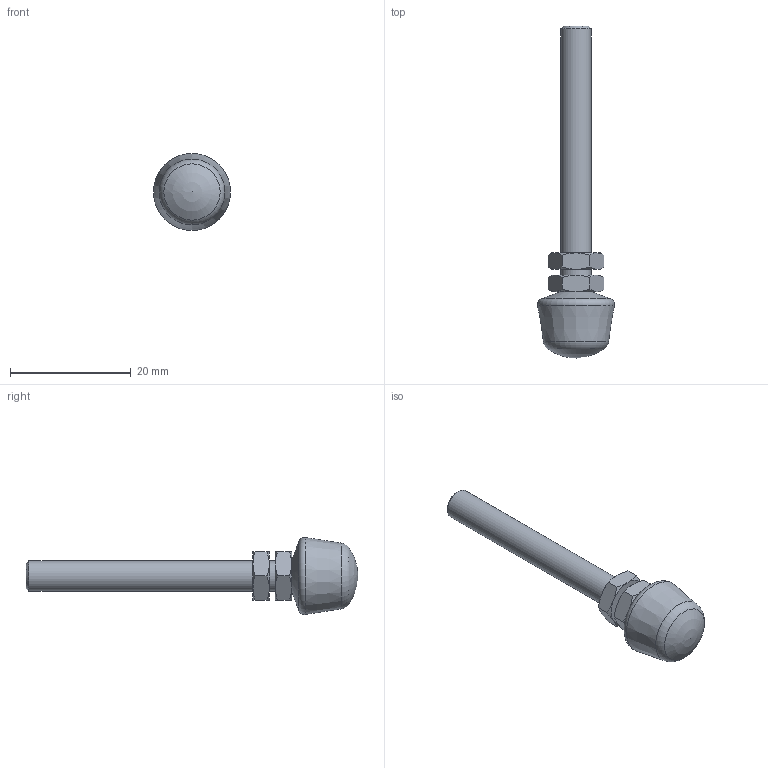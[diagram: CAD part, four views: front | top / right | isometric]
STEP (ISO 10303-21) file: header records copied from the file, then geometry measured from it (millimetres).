
FILE_DESCRIPTION( ( 'STEP AP203' ), '1' );
FILE_NAME( 'C:/Temp/Ganter_Step_05_03_2020/data/2_4/gn_708_1/gn_708_1_ni/Stainless Steel-Clamping bolt GN 708.1-M5-55-B-NI (0).stp', '2020-03-13T05:51:23', ( 'License CC BY-ND 4.0' ), ( 'CADENAS' ), ' ', 'PARTsolutions', ' ' );
FILE_SCHEMA( ( 'CONFIG_CONTROL_DESIGN' ) );
Length unit declared in the file: millimetre
Products named in the file (3): Stainless Steel-Clamping bolt GN 708.1-M5-55-B-NI (0); _Edelstahl-Andrueckschraube GN 708.1-M5-55-B-NI (0)-1; _Edelstahl-Andrueckschraube GN 708.1-M5-55-B-NI-2
Assembly tree (3 placements, depth 2):
  Stainless Steel-Clamping bolt GN 708.1-M5-55-B-NI (0)
    _Edelstahl-Andrueckschraube GN 708.1-M5-55-B-NI (0)-1
    _Edelstahl-Andrueckschraube GN 708.1-M5-55-B-NI-2  x2
Bounding box: 12.77 x 55 x 12.77 mm (x, y, z)
Volume: 2093 mm3; surface area: 1560.8 mm2
Topology: 3 solids, 3 shells, 54 faces, 114 edges, 65 vertices
Faces by surface type: cone 31, plane 17, cylinder 3, torus 2, sphere 1
Full cylindrical faces by diameter (mm): 4.134 x2, 5 x1
Entity records: 926 total; most frequent: CARTESIAN_POINT 229, DIRECTION 122, ORIENTED_EDGE 106, AXIS2_PLACEMENT_3D 58, EDGE_CURVE 53, EDGE_LOOP 42, VERTEX_POINT 37, FACE_OUTER_BOUND 35
